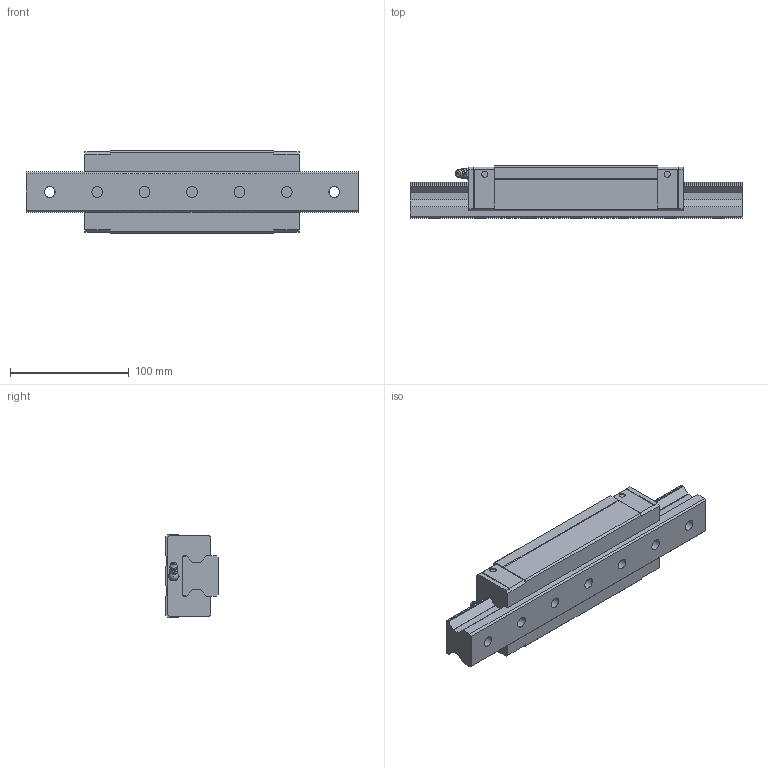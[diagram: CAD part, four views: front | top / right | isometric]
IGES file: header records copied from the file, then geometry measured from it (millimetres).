
Start section: Data from Parasolid IGES Translator 26.0.171, Copyright(c) 2006 Siemens PLM Software. All Rights Reserved.
Global section: file name: SRN35SLR1SS-280L_G20_0_B-M6F_49-6_0_0_0_1.igs; native system: By Siemens PLM Incorporated; preprocessor: XPlus GENERIC/IGES 26.0.171; author: Noname; organization: Noname; date: 20240523.105829; units: millimetre
Bounding box: 280 x 44 x 70 mm (x, y, z)
Surface area: 101123.5 mm2 (no closed solid volume)
Topology: 0 solids, 0 shells, 207 faces, 1077 edges, 987 vertices
Faces by surface type: extrusion 125, revolution 82
